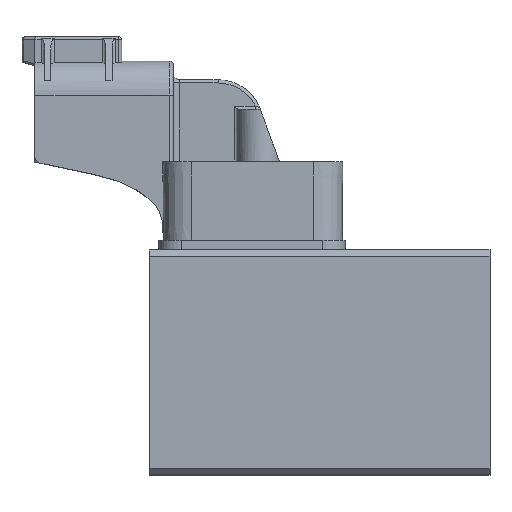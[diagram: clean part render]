
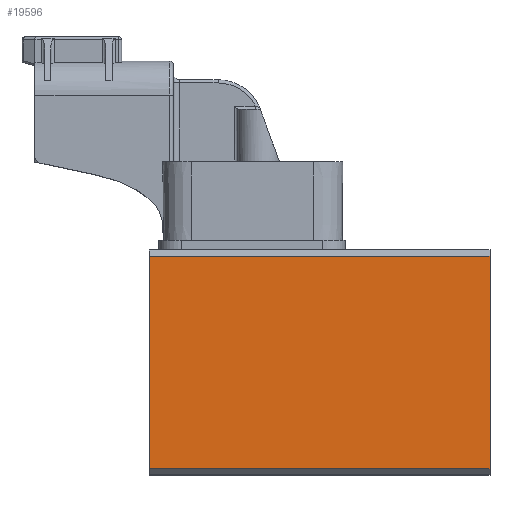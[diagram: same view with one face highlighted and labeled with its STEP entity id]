
A CAD part, top view. The second image highlights one B-rep face of the part: STEP entity #19596.
In plain terms, the highlighted planar face has unit normal (0, 0, 1).
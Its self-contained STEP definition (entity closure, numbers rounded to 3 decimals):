
#30 = ORIENTED_EDGE ( 'NONE', *, *, #5036, .T. ) ;
#498 = CARTESIAN_POINT ( 'NONE',  ( 0., 16.5, 17.5 ) ) ;
#596 = VECTOR ( 'NONE', #2162, 1000. ) ;
#1016 = VERTEX_POINT ( 'NONE', #498 ) ;
#1200 = DIRECTION ( 'NONE',  ( 0., -1., 0. ) ) ;
#1246 = ORIENTED_EDGE ( 'NONE', *, *, #20248, .T. ) ;
#1499 = VECTOR ( 'NONE', #1200, 1000. ) ;
#2162 = DIRECTION ( 'NONE',  ( 0., -1., 0. ) ) ;
#3001 = LINE ( 'NONE', #10923, #11619 ) ;
#3318 = CARTESIAN_POINT ( 'NONE',  ( 53., -17.5, 17.5 ) ) ;
#3816 = CARTESIAN_POINT ( 'NONE',  ( 0., -17.5, 17.5 ) ) ;
#4564 = CARTESIAN_POINT ( 'NONE',  ( 53., 16.5, 17.5 ) ) ;
#4790 = CARTESIAN_POINT ( 'NONE',  ( 53., -16.5, 17.5 ) ) ;
#5033 = DIRECTION ( 'NONE',  ( -1., 0., 0. ) ) ;
#5036 = EDGE_CURVE ( 'NONE', #1016, #18912, #5128, .T. ) ;
#5128 = LINE ( 'NONE', #3816, #596 ) ;
#6528 = DIRECTION ( 'NONE',  ( 1., 0., 0. ) ) ;
#6705 = PLANE ( 'NONE',  #21662 ) ;
#8628 = ORIENTED_EDGE ( 'NONE', *, *, #10712, .T. ) ;
#9886 = CARTESIAN_POINT ( 'NONE',  ( 0., -16.5, 17.5 ) ) ;
#10677 = LINE ( 'NONE', #13250, #1499 ) ;
#10712 = EDGE_CURVE ( 'NONE', #18912, #15303, #12063, .T. ) ;
#10923 = CARTESIAN_POINT ( 'NONE',  ( 53., 16.5, 17.5 ) ) ;
#11619 = VECTOR ( 'NONE', #12626, 1000. ) ;
#12063 = LINE ( 'NONE', #4790, #16140 ) ;
#12626 = DIRECTION ( 'NONE',  ( -1., 0., 0. ) ) ;
#13250 = CARTESIAN_POINT ( 'NONE',  ( 53., -17.5, 17.5 ) ) ;
#13450 = EDGE_CURVE ( 'NONE', #18857, #15303, #10677, .T. ) ;
#15303 = VERTEX_POINT ( 'NONE', #17386 ) ;
#15396 = DIRECTION ( 'NONE',  ( 0., 0., -1. ) ) ;
#15710 = EDGE_LOOP ( 'NONE', ( #30, #8628, #15873, #1246 ) ) ;
#15873 = ORIENTED_EDGE ( 'NONE', *, *, #13450, .F. ) ;
#16140 = VECTOR ( 'NONE', #6528, 1000. ) ;
#17386 = CARTESIAN_POINT ( 'NONE',  ( 53., -16.5, 17.5 ) ) ;
#18694 = FACE_OUTER_BOUND ( 'NONE', #15710, .T. ) ;
#18857 = VERTEX_POINT ( 'NONE', #4564 ) ;
#18912 = VERTEX_POINT ( 'NONE', #9886 ) ;
#19596 = ADVANCED_FACE ( 'NONE', ( #18694 ), #6705, .F. ) ;
#20248 = EDGE_CURVE ( 'NONE', #18857, #1016, #3001, .T. ) ;
#21662 = AXIS2_PLACEMENT_3D ( 'NONE', #3318, #15396, #5033 ) ;
